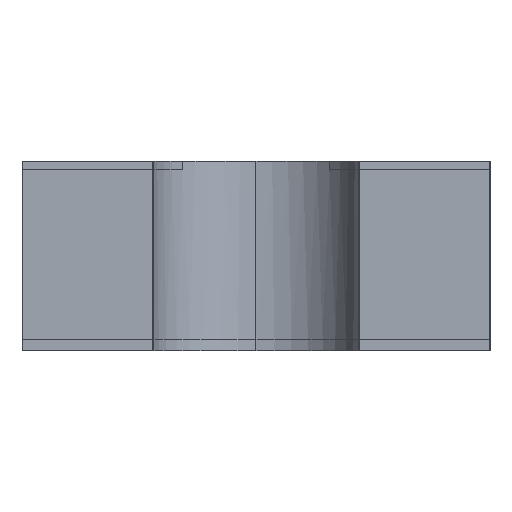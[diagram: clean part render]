
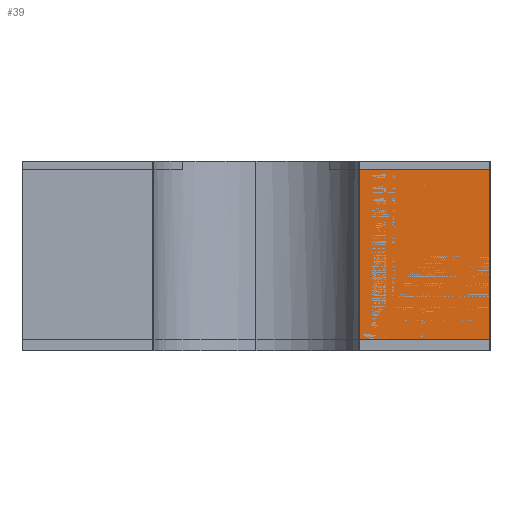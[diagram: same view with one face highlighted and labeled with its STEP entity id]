
A CAD part, left-side view. The second image highlights one B-rep face of the part: STEP entity #39.
In plain terms, the highlighted planar face has unit normal (-1, 0, 0).
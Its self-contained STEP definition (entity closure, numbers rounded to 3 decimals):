
#39 = ADVANCED_FACE('',(#40),#54,.F.);
#40 = FACE_BOUND('',#41,.F.);
#41 = EDGE_LOOP('',(#42,#77,#105,#133));
#42 = ORIENTED_EDGE('',*,*,#43,.F.);
#43 = EDGE_CURVE('',#44,#46,#48,.T.);
#44 = VERTEX_POINT('',#45);
#45 = CARTESIAN_POINT('',(-0.8,-0.407,0.315));
#46 = VERTEX_POINT('',#47);
#47 = CARTESIAN_POINT('',(-0.8,-0.18,0.315));
#48 = SURFACE_CURVE('',#49,(#53,#65),.PCURVE_S1.);
#49 = LINE('',#50,#51);
#50 = CARTESIAN_POINT('',(-0.8,-0.407,0.315));
#51 = VECTOR('',#52,1.);
#52 = DIRECTION('',(0.,1.,0.));
#53 = PCURVE('',#54,#59);
#54 = PLANE('',#55);
#55 = AXIS2_PLACEMENT_3D('',#56,#57,#58);
#56 = CARTESIAN_POINT('',(-0.8,-0.407,0.));
#57 = DIRECTION('',(1.,0.,0.));
#58 = DIRECTION('',(0.,0.,1.));
#59 = DEFINITIONAL_REPRESENTATION('',(#60),#64);
#60 = LINE('',#61,#62);
#61 = CARTESIAN_POINT('',(0.315,0.));
#62 = VECTOR('',#63,1.);
#63 = DIRECTION('',(0.,-1.));
#64 = ( GEOMETRIC_REPRESENTATION_CONTEXT(2) 
PARAMETRIC_REPRESENTATION_CONTEXT() REPRESENTATION_CONTEXT('2D SPACE',''
  ) );
#65 = PCURVE('',#66,#71);
#66 = PLANE('',#67);
#67 = AXIS2_PLACEMENT_3D('',#68,#69,#70);
#68 = CARTESIAN_POINT('',(-0.8,-0.407,0.315));
#69 = DIRECTION('',(0.,0.,1.));
#70 = DIRECTION('',(1.,0.,0.));
#71 = DEFINITIONAL_REPRESENTATION('',(#72),#76);
#72 = LINE('',#73,#74);
#73 = CARTESIAN_POINT('',(0.,0.));
#74 = VECTOR('',#75,1.);
#75 = DIRECTION('',(0.,1.));
#76 = ( GEOMETRIC_REPRESENTATION_CONTEXT(2) 
PARAMETRIC_REPRESENTATION_CONTEXT() REPRESENTATION_CONTEXT('2D SPACE',''
  ) );
#77 = ORIENTED_EDGE('',*,*,#78,.F.);
#78 = EDGE_CURVE('',#79,#44,#81,.T.);
#79 = VERTEX_POINT('',#80);
#80 = CARTESIAN_POINT('',(-0.8,-0.407,0.02));
#81 = SURFACE_CURVE('',#82,(#86,#93),.PCURVE_S1.);
#82 = LINE('',#83,#84);
#83 = CARTESIAN_POINT('',(-0.8,-0.407,0.));
#84 = VECTOR('',#85,1.);
#85 = DIRECTION('',(0.,0.,1.));
#86 = PCURVE('',#54,#87);
#87 = DEFINITIONAL_REPRESENTATION('',(#88),#92);
#88 = LINE('',#89,#90);
#89 = CARTESIAN_POINT('',(0.,0.));
#90 = VECTOR('',#91,1.);
#91 = DIRECTION('',(1.,0.));
#92 = ( GEOMETRIC_REPRESENTATION_CONTEXT(2) 
PARAMETRIC_REPRESENTATION_CONTEXT() REPRESENTATION_CONTEXT('2D SPACE',''
  ) );
#93 = PCURVE('',#94,#99);
#94 = PLANE('',#95);
#95 = AXIS2_PLACEMENT_3D('',#96,#97,#98);
#96 = CARTESIAN_POINT('',(-0.8,-0.407,0.));
#97 = DIRECTION('',(0.,1.,0.));
#98 = DIRECTION('',(0.,0.,1.));
#99 = DEFINITIONAL_REPRESENTATION('',(#100),#104);
#100 = LINE('',#101,#102);
#101 = CARTESIAN_POINT('',(0.,0.));
#102 = VECTOR('',#103,1.);
#103 = DIRECTION('',(1.,0.));
#104 = ( GEOMETRIC_REPRESENTATION_CONTEXT(2) 
PARAMETRIC_REPRESENTATION_CONTEXT() REPRESENTATION_CONTEXT('2D SPACE',''
  ) );
#105 = ORIENTED_EDGE('',*,*,#106,.T.);
#106 = EDGE_CURVE('',#79,#107,#109,.T.);
#107 = VERTEX_POINT('',#108);
#108 = CARTESIAN_POINT('',(-0.8,-0.18,0.02));
#109 = SURFACE_CURVE('',#110,(#114,#121),.PCURVE_S1.);
#110 = LINE('',#111,#112);
#111 = CARTESIAN_POINT('',(-0.8,-0.407,0.02));
#112 = VECTOR('',#113,1.);
#113 = DIRECTION('',(0.,1.,0.));
#114 = PCURVE('',#54,#115);
#115 = DEFINITIONAL_REPRESENTATION('',(#116),#120);
#116 = LINE('',#117,#118);
#117 = CARTESIAN_POINT('',(0.02,0.));
#118 = VECTOR('',#119,1.);
#119 = DIRECTION('',(0.,-1.));
#120 = ( GEOMETRIC_REPRESENTATION_CONTEXT(2) 
PARAMETRIC_REPRESENTATION_CONTEXT() REPRESENTATION_CONTEXT('2D SPACE',''
  ) );
#121 = PCURVE('',#122,#127);
#122 = PLANE('',#123);
#123 = AXIS2_PLACEMENT_3D('',#124,#125,#126);
#124 = CARTESIAN_POINT('',(-0.8,-0.407,0.02));
#125 = DIRECTION('',(0.,0.,1.));
#126 = DIRECTION('',(1.,0.,0.));
#127 = DEFINITIONAL_REPRESENTATION('',(#128),#132);
#128 = LINE('',#129,#130);
#129 = CARTESIAN_POINT('',(0.,0.));
#130 = VECTOR('',#131,1.);
#131 = DIRECTION('',(0.,1.));
#132 = ( GEOMETRIC_REPRESENTATION_CONTEXT(2) 
PARAMETRIC_REPRESENTATION_CONTEXT() REPRESENTATION_CONTEXT('2D SPACE',''
  ) );
#133 = ORIENTED_EDGE('',*,*,#134,.F.);
#134 = EDGE_CURVE('',#46,#107,#135,.T.);
#135 = SURFACE_CURVE('',#136,(#140,#146),.PCURVE_S1.);
#136 = LINE('',#137,#138);
#137 = CARTESIAN_POINT('',(-0.8,-0.18,-0.001));
#138 = VECTOR('',#139,1.);
#139 = DIRECTION('',(-0.,-0.,-1.));
#140 = PCURVE('',#54,#141);
#141 = DEFINITIONAL_REPRESENTATION('',(#142),#145);
#142 = B_SPLINE_CURVE_WITH_KNOTS('',1,(#143,#144),.UNSPECIFIED.,.F.,.F.,
  (2,2),(-0.332,0.),.PIECEWISE_BEZIER_KNOTS.);
#143 = CARTESIAN_POINT('',(0.331,-0.227));
#144 = CARTESIAN_POINT('',(-0.001,-0.227));
#145 = ( GEOMETRIC_REPRESENTATION_CONTEXT(2) 
PARAMETRIC_REPRESENTATION_CONTEXT() REPRESENTATION_CONTEXT('2D SPACE',''
  ) );
#146 = PCURVE('',#147,#152);
#147 = CYLINDRICAL_SURFACE('',#148,0.18);
#148 = AXIS2_PLACEMENT_3D('',#149,#150,#151);
#149 = CARTESIAN_POINT('',(-0.8,0.,-0.001));
#150 = DIRECTION('',(-0.,-0.,-1.));
#151 = DIRECTION('',(1.,0.,0.));
#152 = DEFINITIONAL_REPRESENTATION('',(#153),#156);
#153 = B_SPLINE_CURVE_WITH_KNOTS('',1,(#154,#155),.UNSPECIFIED.,.F.,.F.,
  (2,2),(-0.332,0.),.PIECEWISE_BEZIER_KNOTS.);
#154 = CARTESIAN_POINT('',(-4.712,-0.332));
#155 = CARTESIAN_POINT('',(-4.712,0.));
#156 = ( GEOMETRIC_REPRESENTATION_CONTEXT(2) 
PARAMETRIC_REPRESENTATION_CONTEXT() REPRESENTATION_CONTEXT('2D SPACE',''
  ) );
